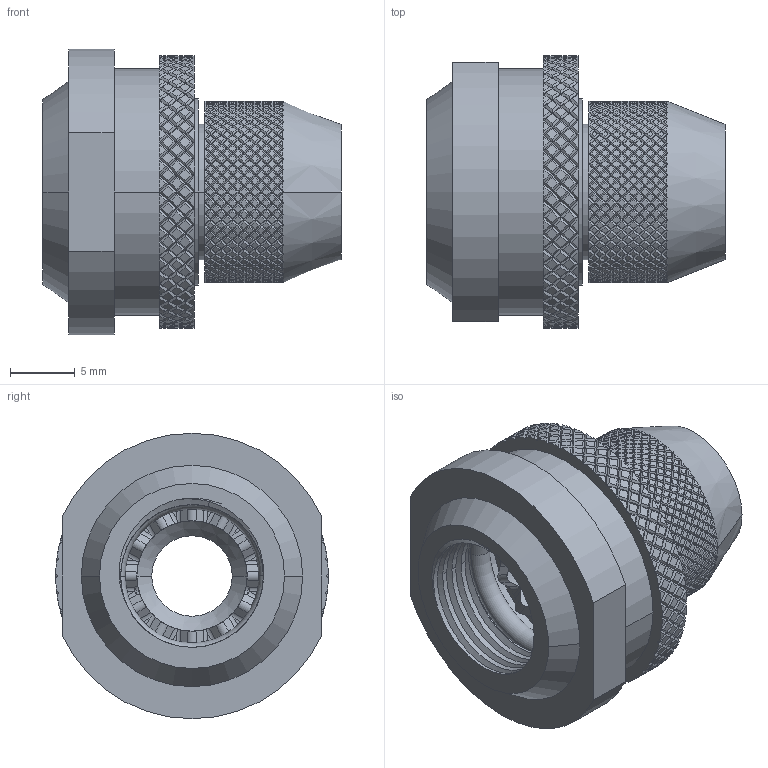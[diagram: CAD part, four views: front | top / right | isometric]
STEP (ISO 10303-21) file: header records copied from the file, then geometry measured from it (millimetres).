
FILE_DESCRIPTION((''),'2;1');
FILE_NAME('001_ASM','2012-05-26T',('madhukara'),(''),'PRO/ENGINEER BY PARAMETRIC TECHNOLOGY CORPORATION, 2008150','PRO/ENGINEER BY PARAMETRIC TECHNOLOGY CORPORATION, 2008150','');
FILE_SCHEMA(('CONFIG_CONTROL_DESIGN'));
Length unit declared in the file: millimetre
Products named in the file (5): FOL; CPLR; B_NUT; O_RING; 001_ASM
Assembly tree (4 placements, depth 2):
  001_ASM
    FOL
    CPLR
    B_NUT
    O_RING
Bounding box: 22.99 x 21 x 22 mm (x, y, z)
Volume: 3480.2 mm3; surface area: 5065 mm2
Topology: 4 solids, 4 shells, 6093 faces, 12641 edges, 6570 vertices
Faces by surface type: bspline 4415, cylinder 1096, plane 560, cone 10, torus 10, sphere 2
Entity records: 358123 total; most frequent: CARTESIAN_POINT 268221, ORIENTED_EDGE 25282, EDGE_CURVE 12641, B_SPLINE_CURVE_WITH_KNOTS 11213, VERTEX_POINT 6570, EDGE_LOOP 6115, FACE_OUTER_BOUND 6093, ADVANCED_FACE 6093
